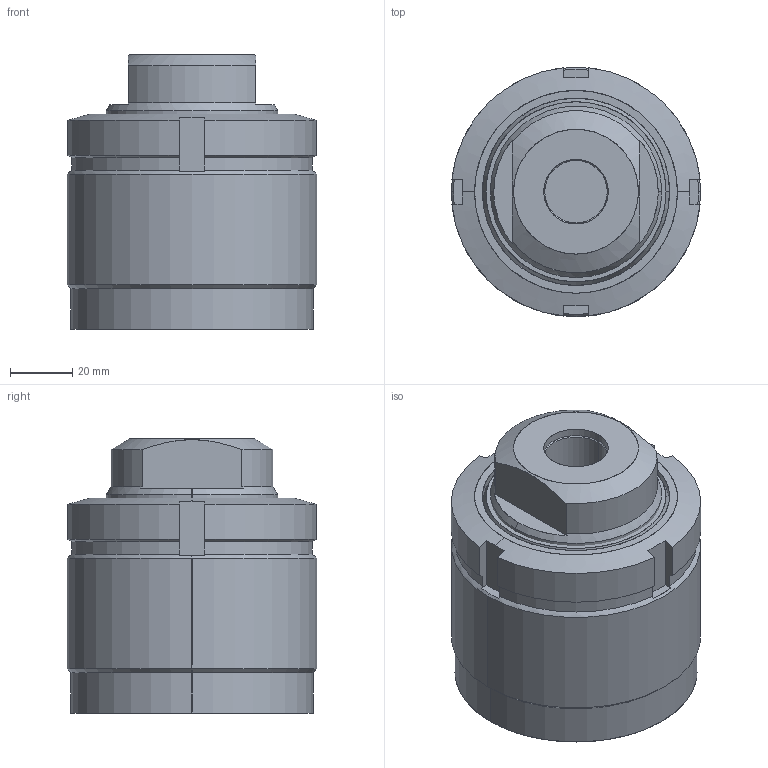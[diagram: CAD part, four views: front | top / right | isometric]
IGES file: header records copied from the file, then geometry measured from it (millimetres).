
Start section: SolidWorks IGES file using analytic representation for surfaces
Global section: file name: D:\abhilash\nijil\cylinder\Clasys1\dp converted\09\pt\0901\0102-0901.IGS; native system: SolidWorks 2010; preprocessor: SolidWorks 2010; author: nidheesh; date: 130730.113031; units: millimetre
Bounding box: 80 x 80 x 88 mm (x, y, z)
Surface area: 38370.5 mm2 (no closed solid volume)
Topology: 0 solids, 0 shells, 85 faces, 1406 edges, 1406 vertices
Faces by surface type: revolution 50, bspline 35
